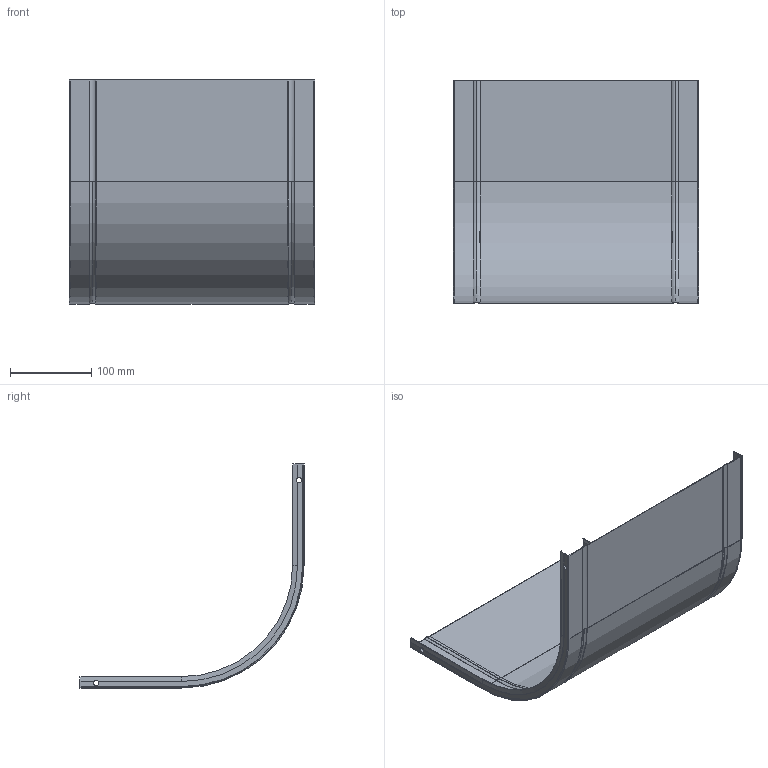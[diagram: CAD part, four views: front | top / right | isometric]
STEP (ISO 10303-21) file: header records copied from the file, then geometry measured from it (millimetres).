
FILE_DESCRIPTION (( 'STEP AP203' ), '1' );
FILE_NAME ('ERE_TAPA CXERC 300x100.step', '2023-07-28T14:53:00', ( '' ), ( '' ), 'SwSTEP 2.0', 'SolidWorks 2022', '' );
FILE_SCHEMA (( 'CONFIG_CONTROL_DESIGN' ));
Length unit declared in the file: millimetre
Products named in the file (1): ERE_TAPA CXERC 300x100
Bounding box: 302 x 275 x 275 mm (x, y, z)
Volume: 127416.5 mm3; surface area: 319199.9 mm2
Topology: 1 solids, 1 shells, 82 faces, 228 edges, 140 vertices
Faces by surface type: cylinder 36, plane 30, torus 12, cone 4
Entity records: 2709 total; most frequent: CARTESIAN_POINT 487, DIRECTION 474, ORIENTED_EDGE 456, EDGE_CURVE 228, AXIS2_PLACEMENT_3D 175, VERTEX_POINT 140, LINE 124, VECTOR 124
